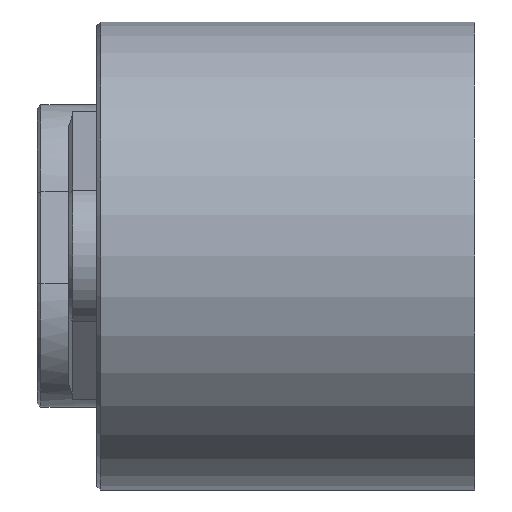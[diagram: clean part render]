
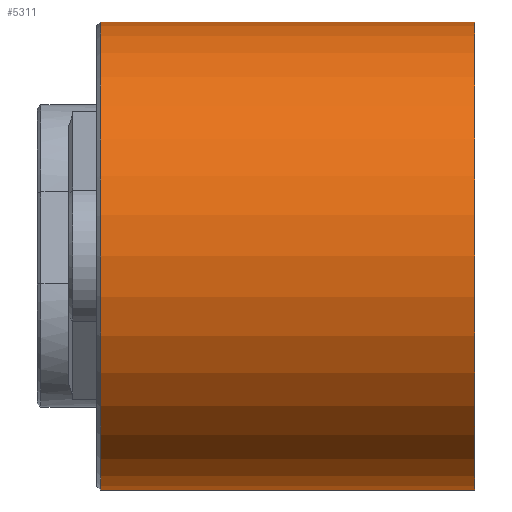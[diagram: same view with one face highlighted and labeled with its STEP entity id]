
A CAD part, left-side view. The second image highlights one B-rep face of the part: STEP entity #5311.
In plain terms, the highlighted cylindrical face has radius 7.874 mm (diameter 15.748 mm), a partial arc.
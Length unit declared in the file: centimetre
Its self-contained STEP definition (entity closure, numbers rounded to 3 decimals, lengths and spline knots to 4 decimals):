
#5311 = ADVANCED_FACE ( 'NONE', ( #7223 ), #7228, .T. ) ;
#7223 = FACE_OUTER_BOUND ( 'NONE', #17376, .T. ) ;
#7228 = CYLINDRICAL_SURFACE ( 'NONE', #24113, 0.7874 ) ;
#9033 = AXIS2_PLACEMENT_3D ( 'NONE', #16122, #16123, #16124 ) ;
#9035 = AXIS2_PLACEMENT_3D ( 'NONE', #16155, #16156, #16157 ) ;
#12853 = CIRCLE ( 'NONE', #9033, 0.7874 ) ;
#12889 = CIRCLE ( 'NONE', #9035, 0.7874 ) ;
#12895 = LINE ( 'NONE', #16160, #12896 ) ;
#12896 = VECTOR ( 'NONE', #16161, 100. ) ;
#12897 = LINE ( 'NONE', #16150, #12899 ) ;
#12899 = VECTOR ( 'NONE', #16158, 100. ) ;
#16122 = CARTESIAN_POINT ( 'NONE',  ( -1.256, 1.2598, 0. ) ) ;
#16123 = DIRECTION ( 'NONE',  ( 0., -1., 0. ) ) ;
#16124 = DIRECTION ( 'NONE',  ( 0., 0., 1. ) ) ;
#16150 = CARTESIAN_POINT ( 'NONE',  ( -1.256, 0., -0.7874 ) ) ;
#16155 = CARTESIAN_POINT ( 'NONE',  ( -1.256, 0., 0. ) ) ;
#16156 = DIRECTION ( 'NONE',  ( 0., 1., 0. ) ) ;
#16157 = DIRECTION ( 'NONE',  ( 0., 0., 1. ) ) ;
#16158 = DIRECTION ( 'NONE',  ( 0., 1., 0. ) ) ;
#16160 = CARTESIAN_POINT ( 'NONE',  ( -1.256, 0., 0.7874 ) ) ;
#16161 = DIRECTION ( 'NONE',  ( 0., -1., 0. ) ) ;
#16921 = VERTEX_POINT ( 'NONE', #21597 ) ;
#16923 = VERTEX_POINT ( 'NONE', #21601 ) ;
#16953 = VERTEX_POINT ( 'NONE', #21647 ) ;
#17181 = VERTEX_POINT ( 'NONE', #21999 ) ;
#17376 = EDGE_LOOP ( 'NONE', ( #29440, #29449, #29441, #29303 ) ) ;
#19481 = DIRECTION ( 'NONE',  ( 0., 0., 1. ) ) ;
#19485 = DIRECTION ( 'NONE',  ( 0., 1., 0. ) ) ;
#19486 = CARTESIAN_POINT ( 'NONE',  ( -1.256, 0., 0. ) ) ;
#21597 = CARTESIAN_POINT ( 'NONE',  ( -1.256, 0., -0.7874 ) ) ;
#21601 = CARTESIAN_POINT ( 'NONE',  ( -1.256, 1.2598, -0.7874 ) ) ;
#21647 = CARTESIAN_POINT ( 'NONE',  ( -1.256, 0., 0.7874 ) ) ;
#21999 = CARTESIAN_POINT ( 'NONE',  ( -1.256, 1.2598, 0.7874 ) ) ;
#24113 = AXIS2_PLACEMENT_3D ( 'NONE', #19486, #19485, #19481 ) ;
#29303 = ORIENTED_EDGE ( 'NONE', *, *, #29898, .F. ) ;
#29440 = ORIENTED_EDGE ( 'NONE', *, *, #29894, .T. ) ;
#29441 = ORIENTED_EDGE ( 'NONE', *, *, #29879, .T. ) ;
#29449 = ORIENTED_EDGE ( 'NONE', *, *, #29896, .F. ) ;
#29879 = EDGE_CURVE ( 'NONE', #17181, #16923, #12853, .T. ) ;
#29894 = EDGE_CURVE ( 'NONE', #16921, #16953, #12889, .T. ) ;
#29896 = EDGE_CURVE ( 'NONE', #17181, #16953, #12895, .T. ) ;
#29898 = EDGE_CURVE ( 'NONE', #16921, #16923, #12897, .T. ) ;
